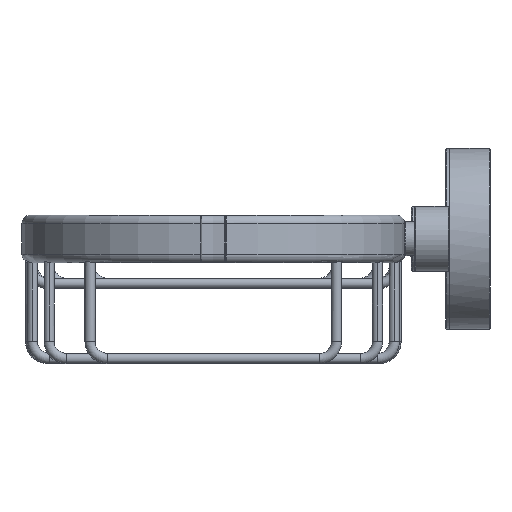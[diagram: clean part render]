
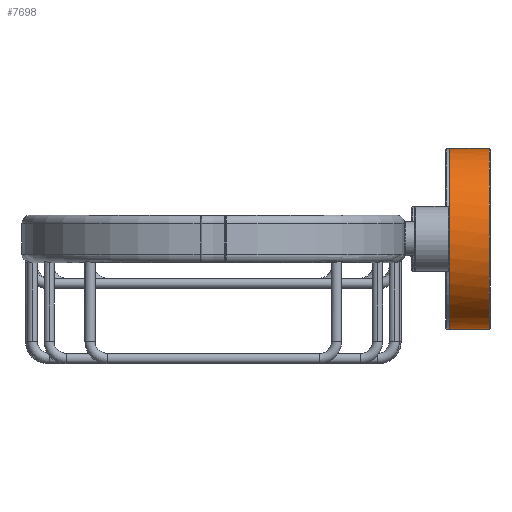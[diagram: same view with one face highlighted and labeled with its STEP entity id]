
A CAD part, left-side view. The second image highlights one B-rep face of the part: STEP entity #7698.
In plain terms, the highlighted cylindrical face has radius 26.5 mm (diameter 53 mm), a partial arc.
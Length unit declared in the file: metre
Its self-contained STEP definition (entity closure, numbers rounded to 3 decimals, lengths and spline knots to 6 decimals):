
#242=VERTEX_POINT('',#243);
#243=CARTESIAN_POINT('',(0.0,0.0118,-0.0265));
#248=CARTESIAN_POINT('',(0.0,0.0118,0.0265));
#250=EDGE_CURVE('',#251,#242,#253,.T.);
#251=VERTEX_POINT('',#252);
#252=CARTESIAN_POINT('',(0.0,0.0118,0.0265));
#253=(B_SPLINE_CURVE(3,(#248,#254,#255,#256),.UNSPECIFIED.,.F.,.U.)B_SPLINE_CURVE_WITH_KNOTS(
  (4,4),(0.0,1.0),.UNSPECIFIED.)BOUNDED_CURVE()CURVE()GEOMETRIC_REPRESENTATION_ITEM(
  )RATIONAL_B_SPLINE_CURVE((1.0,0.333,0.333,1.0)
  )REPRESENTATION_ITEM(''));
#254=CARTESIAN_POINT('',(-0.053,0.0118,0.0265));
#255=CARTESIAN_POINT('',(-0.053,0.0118,-0.0265));
#256=CARTESIAN_POINT('',(0.0,0.0118,-0.0265));
#284=VERTEX_POINT('',#285);
#285=CARTESIAN_POINT('',(0.0,0.0002,-0.0265));
#292=VERTEX_POINT('',#293);
#293=CARTESIAN_POINT('',(0.0,0.0002,0.0265));
#7628=CYLINDRICAL_SURFACE('',#7629,0.0265);
#7629=AXIS2_PLACEMENT_3D('',#7630,#7631,#7632);
#7630=CARTESIAN_POINT('',(0.0,0.012,0.0));
#7631=DIRECTION('',(0.0,1.0,0.0));
#7632=DIRECTION('',(0.0,0.0,1.0));
#7637=EDGE_CURVE('',#284,#242,#7638,.T.);
#7638=LINE('',#7639,#7640);
#7639=CARTESIAN_POINT('',(0.0,0.012,-0.0265));
#7640=VECTOR('',#7641,1.0);
#7641=DIRECTION('',(0.0,1.0,0.0));
#7650=EDGE_CURVE('',#292,#251,#7651,.T.);
#7651=LINE('',#7652,#7653);
#7652=CARTESIAN_POINT('',(0.0,0.012,0.0265));
#7653=VECTOR('',#7654,1.0);
#7654=DIRECTION('',(0.0,1.0,0.0));
#7696=FACE_OUTER_BOUND('',#7699,.T.);
#7698=ADVANCED_FACE('',(#7696),#7628,.T.);
#7699=EDGE_LOOP('',(#7700,#7701,#7709,#7710));
#7700=ORIENTED_EDGE('',*,*,#7637,.F.);
#7701=ORIENTED_EDGE('',*,*,#7703,.T.);
#7702=CARTESIAN_POINT('',(0.0,0.0002,-0.0265));
#7703=EDGE_CURVE('',#284,#292,#7704,.T.);
#7704=(B_SPLINE_CURVE(3,(#7702,#7705,#7706,#7707),.UNSPECIFIED.,.F.,.U.)B_SPLINE_CURVE_WITH_KNOTS(
  (4,4),(0.0,1.0),.UNSPECIFIED.)BOUNDED_CURVE()CURVE()GEOMETRIC_REPRESENTATION_ITEM(
  )RATIONAL_B_SPLINE_CURVE((1.0,0.333,0.333,1.0)
  )REPRESENTATION_ITEM(''));
#7705=CARTESIAN_POINT('',(-0.053,0.0002,-0.0265));
#7706=CARTESIAN_POINT('',(-0.053,0.0002,0.0265));
#7707=CARTESIAN_POINT('',(0.0,0.0002,0.0265));
#7709=ORIENTED_EDGE('',*,*,#7650,.T.);
#7710=ORIENTED_EDGE('',*,*,#250,.T.);
